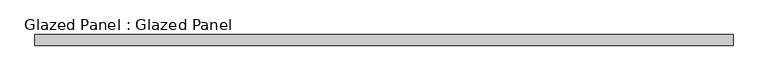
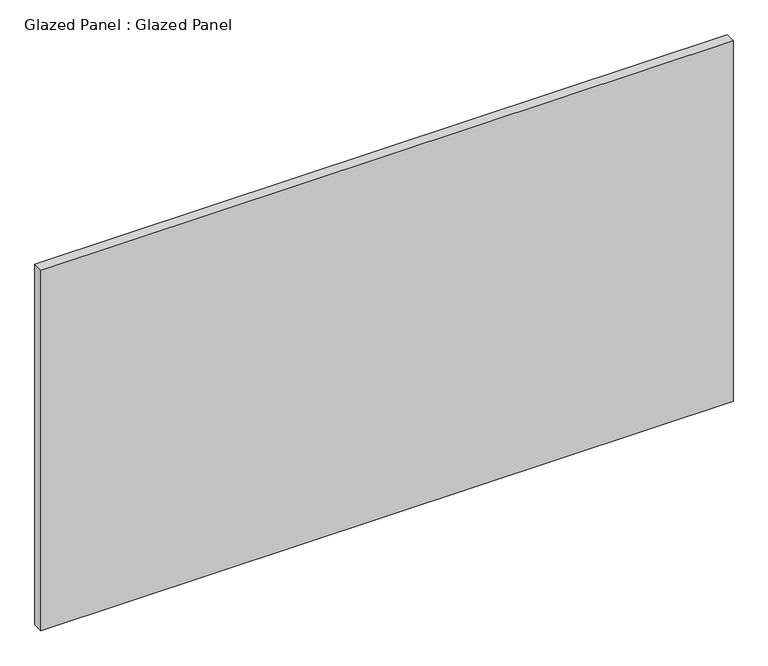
"""IFC4 building model written with IfcOpenShell, lengths in millimetres: plate geometry, Glazed Panel : Glazed Panel."""

from ifc_helpers import new_model, si_unit, origin, origin_with_axes, place, context, project, spatial, polyline, outline, extrude, source, transform, mapped, element, save


def glazed_panel_glazed_panel_a2063601(model_context):
    return source(origin(), model_context, "Body", "SweptSolid", [
        extrude(outline(polyline([(835.8873557, 38.1), (-835.8873557, 38.1), (-835.8873557, 63.5), (835.8873557, 63.5), (835.8873557, 38.1)])), origin_with_axes(), (0.0, 0.0, 1.0), 920.75),
    ])


if __name__ == "__main__":
    model = new_model("IFC4")
    model_context = context("Model", 3, world=origin())
    ifc_project = project(units=[si_unit("LENGTHUNIT", "METRE", prefix="MILLI")], contexts=[model_context])
    site = spatial("IfcSite", under=ifc_project)
    building = spatial("IfcBuilding", under=site)
    placement = place(None, origin())
    glazed_panel_glazed_panel_shape = glazed_panel_glazed_panel_a2063601(model_context)
    element("IfcPlate", 1, ObjectType="Glazed Panel : Glazed Panel", at=placement, inside=building, context=model_context, shape_type="MappedRepresentation", body=[
        mapped(glazed_panel_glazed_panel_shape, transform((0.0, 0.0, 0.0), x_axis=(1.0, 0.0, 0.0), y_axis=(0.0, 1.0, 0.0), z_axis=(0.0, 0.0, 1.0))),
    ])
    save(model, "model.ifc")
